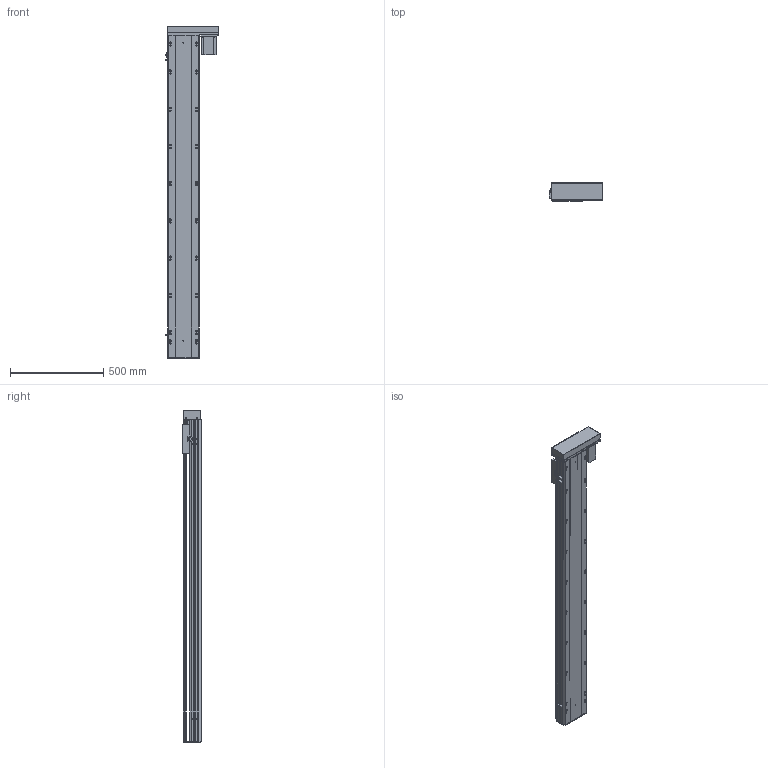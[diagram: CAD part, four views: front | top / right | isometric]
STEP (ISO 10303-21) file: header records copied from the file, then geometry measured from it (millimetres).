
FILE_DESCRIPTION (( 'STEP AP203' ), '1' );
FILE_NAME ('Y170-D10-S1450-BL-P750W.STEP', '2020-01-21T12:52:22', ( '微软用户' ), ( '微软中国' ), 'SwSTEP 2.0', 'SolidWorks 2017', '' );
FILE_SCHEMA (( 'CONFIG_CONTROL_DESIGN' ));
Length unit declared in the file: millimetre
Products named in the file (12): Y100-135俋离換覜ん; Y170-BL-P750W楊擘啣; Y170-D10-S1450-BL-P750W; 侂狟750W; EGH20賑輸_蕼偞; Y雄赽釱-耜蚾; Y170-陔遴奻裔-BR; Y-BL.BR-俋欶; Y--BL蟀諉啣-陔遴-; Y170耜裔--準---; YD-Y100-135-新外置传感挡片(通用）; 170--掛极-BR
Assembly tree (14 placements, depth 2):
  Y170-D10-S1450-BL-P750W
    Y170耜裔--準---
    170--掛极-BR
    Y170-BL-P750W楊擘啣
    侂狟750W
    EGH20賑輸_蕼偞  x2
    Y雄赽釱-耜蚾
    Y170-陔遴奻裔-BR
    Y-BL.BR-俋欶
    Y--BL蟀諉啣-陔遴-
    YD-Y100-135-新外置传感挡片(通用）
    Y100-135俋离換覜ん  x3
Bounding box: 289 x 97 x 1783.5 mm (x, y, z)
Volume: 7939932 mm3; surface area: 2806349.2 mm2
Topology: 14 solids, 14 shells, 969 faces, 2786 edges, 1840 vertices
Faces by surface type: cylinder 510, plane 443, cone 16
Entity records: 31370 total; most frequent: CARTESIAN_POINT 5758, DIRECTION 5148, ORIENTED_EDGE 5068, EDGE_CURVE 2534, AXIS2_PLACEMENT_3D 1842, VERTEX_POINT 1684, VECTOR 1464, LINE 1464
